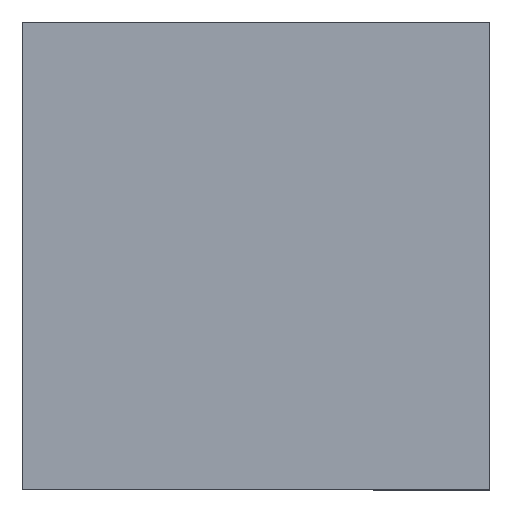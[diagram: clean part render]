
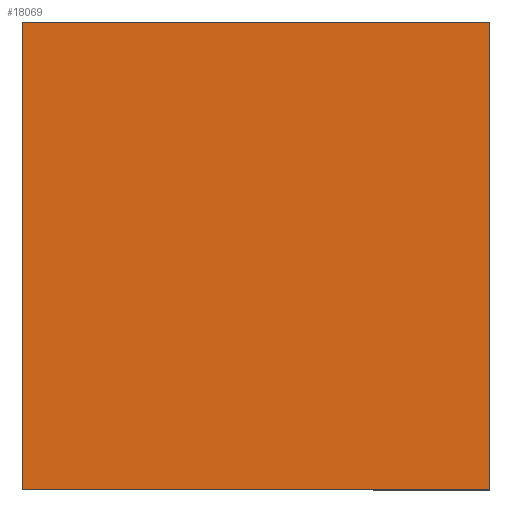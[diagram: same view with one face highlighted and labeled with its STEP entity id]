
A CAD part, top view. The second image highlights one B-rep face of the part: STEP entity #18069.
In plain terms, the highlighted planar face has unit normal (0, 0, 1) as drawn and (0, -1, 0) by its records, which use the part's own axes.
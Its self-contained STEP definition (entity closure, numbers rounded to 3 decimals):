
#150 = VERTEX_POINT ( 'NONE', #7878 ) ;
#193 = ORIENTED_EDGE ( 'NONE', *, *, #556, .T. ) ;
#556 = EDGE_CURVE ( 'NONE', #4282, #20195, #21480, .T. ) ;
#1277 = CARTESIAN_POINT ( 'NONE',  ( 50., -50., -50. ) ) ;
#1545 = EDGE_CURVE ( 'NONE', #20195, #150, #20606, .T. ) ;
#1605 = LINE ( 'NONE', #8349, #16463 ) ;
#3176 = DIRECTION ( 'NONE',  ( 0., 0., -1. ) ) ;
#4282 = VERTEX_POINT ( 'NONE', #21902 ) ;
#5290 = CARTESIAN_POINT ( 'NONE',  ( 50., -50., 50. ) ) ;
#5354 = VECTOR ( 'NONE', #8285, 1000. ) ;
#5602 = AXIS2_PLACEMENT_3D ( 'NONE', #1277, #8140, #3176 ) ;
#6056 = CARTESIAN_POINT ( 'NONE',  ( 50., -50., -50. ) ) ;
#6230 = FACE_OUTER_BOUND ( 'NONE', #13207, .T. ) ;
#7728 = VECTOR ( 'NONE', #17462, 1000. ) ;
#7854 = CARTESIAN_POINT ( 'NONE',  ( -50., -50., -50. ) ) ;
#7878 = CARTESIAN_POINT ( 'NONE',  ( -50., -50., 50. ) ) ;
#8140 = DIRECTION ( 'NONE',  ( 0., -1., 0. ) ) ;
#8285 = DIRECTION ( 'NONE',  ( -1., 0., 0. ) ) ;
#8349 = CARTESIAN_POINT ( 'NONE',  ( -50., -50., -50. ) ) ;
#11737 = PLANE ( 'NONE',  #5602 ) ;
#12271 = ORIENTED_EDGE ( 'NONE', *, *, #12545, .F. ) ;
#12545 = EDGE_CURVE ( 'NONE', #4282, #16411, #18203, .T. ) ;
#12906 = DIRECTION ( 'NONE',  ( 0., 0., 1. ) ) ;
#13015 = CARTESIAN_POINT ( 'NONE',  ( 50., -50., -50. ) ) ;
#13207 = EDGE_LOOP ( 'NONE', ( #15976, #12271, #193, #13859 ) ) ;
#13859 = ORIENTED_EDGE ( 'NONE', *, *, #1545, .T. ) ;
#14049 = EDGE_CURVE ( 'NONE', #16411, #150, #1605, .T. ) ;
#15632 = VECTOR ( 'NONE', #12906, 1000. ) ;
#15976 = ORIENTED_EDGE ( 'NONE', *, *, #14049, .F. ) ;
#16047 = CARTESIAN_POINT ( 'NONE',  ( 50., -50., 50. ) ) ;
#16411 = VERTEX_POINT ( 'NONE', #7854 ) ;
#16463 = VECTOR ( 'NONE', #18602, 1000. ) ;
#17462 = DIRECTION ( 'NONE',  ( -1., 0., 0. ) ) ;
#18069 = ADVANCED_FACE ( 'NONE', ( #6230 ), #11737, .T. ) ;
#18203 = LINE ( 'NONE', #13015, #5354 ) ;
#18602 = DIRECTION ( 'NONE',  ( 0., 0., 1. ) ) ;
#20195 = VERTEX_POINT ( 'NONE', #16047 ) ;
#20606 = LINE ( 'NONE', #5290, #7728 ) ;
#21480 = LINE ( 'NONE', #6056, #15632 ) ;
#21902 = CARTESIAN_POINT ( 'NONE',  ( 50., -50., -50. ) ) ;
